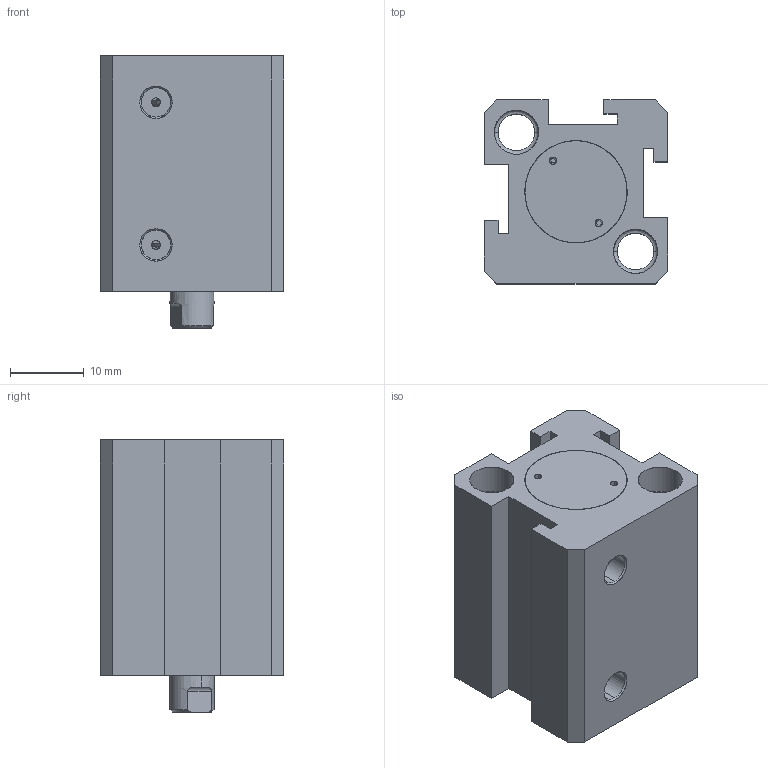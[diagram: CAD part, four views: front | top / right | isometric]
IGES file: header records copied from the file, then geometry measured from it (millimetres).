
Start section: SolidWorks IGES file using analytic representation for surfaces
Global section: file name: D:\ARICA 3D 禽Z軲LER\3D IGES\SDA-S\SDA-S 12\SDA-S-12X5CYLINDER.IGS,1; native system: 5HSolidWorks 2013; preprocessor: SolidWorks 2013; author: user; date: 150727.094412; units: millimetre
Bounding box: 25 x 25 x 37 mm (x, y, z)
Surface area: 10059.8 mm2 (no closed solid volume)
Topology: 0 solids, 0 shells, 150 faces, 2320 edges, 2320 vertices
Faces by surface type: revolution 78, bspline 72
